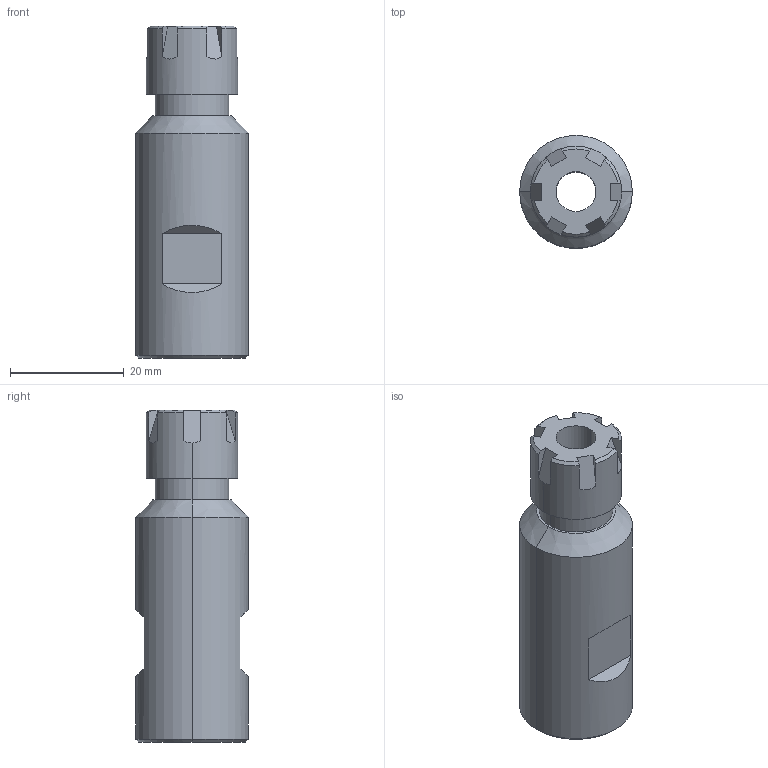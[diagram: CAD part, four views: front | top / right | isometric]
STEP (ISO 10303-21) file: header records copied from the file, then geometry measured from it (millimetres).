
FILE_DESCRIPTION (( 'STEP AP203' ), '1' );
FILE_NAME ('041J004020 Collet chuck ER11 B10 1-8 mm.STEP', '2009-09-03T14:02:23', ( 'HP' ), ( '' ), 'SwSTEP 2.0', 'SolidWorks 2008', '' );
FILE_SCHEMA (( 'CONFIG_CONTROL_DESIGN' ));
Length unit declared in the file: millimetre
Products named in the file (1): 041J004020 Collet chuck ER11 B10 1-8 mm
Bounding box: 19.8 x 19.8 x 58.3 mm (x, y, z)
Volume: 12650 mm3; surface area: 5357.6 mm2
Topology: 1 solids, 1 shells, 51 faces, 128 edges, 84 vertices
Faces by surface type: plane 29, cone 14, cylinder 8
Entity records: 1621 total; most frequent: CARTESIAN_POINT 336, ORIENTED_EDGE 256, DIRECTION 246, EDGE_CURVE 128, AXIS2_PLACEMENT_3D 90, VERTEX_POINT 84, VECTOR 66, LINE 66
